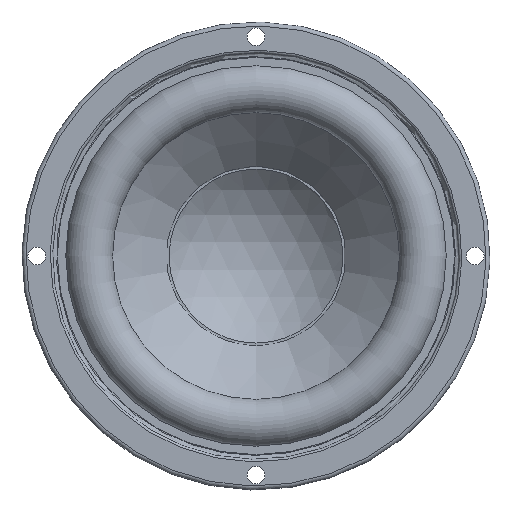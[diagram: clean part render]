
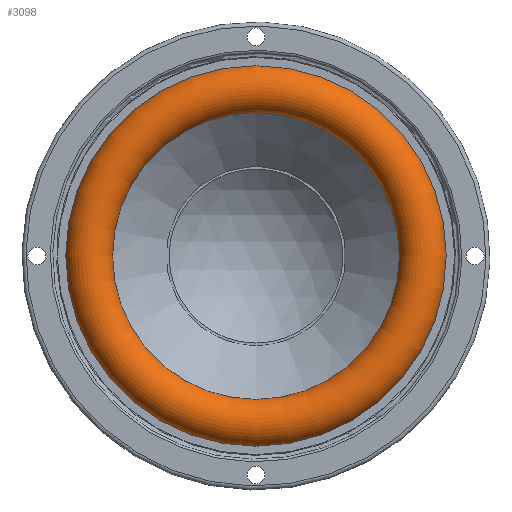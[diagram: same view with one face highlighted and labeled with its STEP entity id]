
A CAD part, top view. The second image highlights one B-rep face of the part: STEP entity #3098.
In plain terms, the highlighted toroidal (fillet/blend) face has major radius 41.409 mm and minor radius 6 mm.
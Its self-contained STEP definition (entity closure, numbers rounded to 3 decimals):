
#150=TOROIDAL_SURFACE('',#3456,41.409,6.);
#468=FACE_OUTER_BOUND('',#694,.T.);
#694=EDGE_LOOP('',(#2856,#2857,#2858,#2859,#2860));
#1253=CIRCLE('',#3454,35.548);
#1254=CIRCLE('',#3455,35.548);
#1255=CIRCLE('',#3457,47.139);
#1256=CIRCLE('',#3458,6.);
#1547=VERTEX_POINT('',#6915);
#1548=VERTEX_POINT('',#6917);
#1549=VERTEX_POINT('',#6921);
#1985=EDGE_CURVE('',#1548,#1547,#1253,.T.);
#1986=EDGE_CURVE('',#1547,#1548,#1254,.T.);
#1987=EDGE_CURVE('',#1549,#1549,#1255,.T.);
#1988=EDGE_CURVE('',#1549,#1548,#1256,.T.);
#2856=ORIENTED_EDGE('',*,*,#1987,.F.);
#2857=ORIENTED_EDGE('',*,*,#1988,.T.);
#2858=ORIENTED_EDGE('',*,*,#1985,.T.);
#2859=ORIENTED_EDGE('',*,*,#1986,.T.);
#2860=ORIENTED_EDGE('',*,*,#1988,.F.);
#3098=ADVANCED_FACE('',(#468),#150,.T.);
#3454=AXIS2_PLACEMENT_3D('',#6918,#4298,#4299);
#3455=AXIS2_PLACEMENT_3D('',#6919,#4300,#4301);
#3456=AXIS2_PLACEMENT_3D('',#6920,#4302,#4303);
#3457=AXIS2_PLACEMENT_3D('',#6922,#4304,#4305);
#3458=AXIS2_PLACEMENT_3D('',#6923,#4306,#4307);
#4298=DIRECTION('center_axis',(0.,-1.,0.));
#4299=DIRECTION('ref_axis',(0.,0.,-1.));
#4300=DIRECTION('center_axis',(0.,-1.,0.));
#4301=DIRECTION('ref_axis',(0.,0.,-1.));
#4302=DIRECTION('center_axis',(0.,-1.,0.));
#4303=DIRECTION('ref_axis',(0.,0.,-1.));
#4304=DIRECTION('center_axis',(0.,-1.,0.));
#4305=DIRECTION('ref_axis',(0.,0.,-1.));
#4306=DIRECTION('center_axis',(-1.,0.,0.));
#4307=DIRECTION('ref_axis',(0.,0.,1.));
#6915=CARTESIAN_POINT('',(0.,20.,-35.548));
#6917=CARTESIAN_POINT('',(0.,20.,35.548));
#6918=CARTESIAN_POINT('Origin',(0.,20.,0.));
#6919=CARTESIAN_POINT('Origin',(0.,20.,0.));
#6920=CARTESIAN_POINT('Origin',(0.,18.72,0.));
#6921=CARTESIAN_POINT('',(0.,20.5,47.139));
#6922=CARTESIAN_POINT('Origin',(0.,20.5,0.));
#6923=CARTESIAN_POINT('Origin',(0.,18.72,
41.409));
